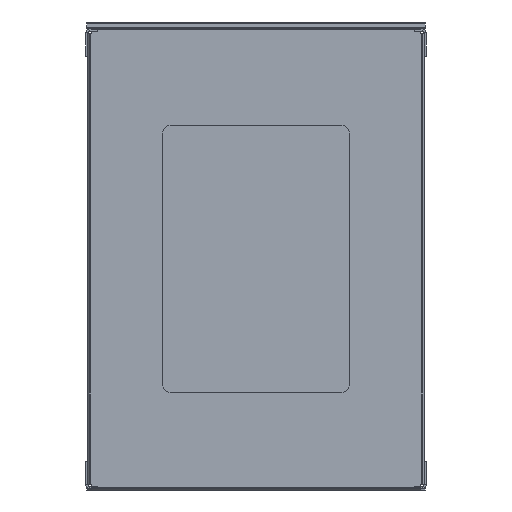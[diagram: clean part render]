
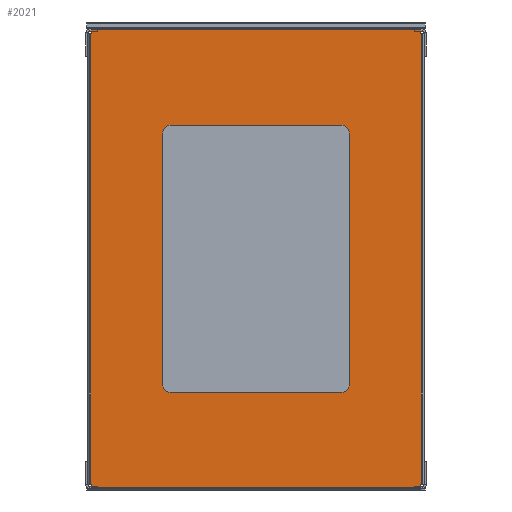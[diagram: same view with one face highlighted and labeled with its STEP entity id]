
A CAD part, front view. The second image highlights one B-rep face of the part: STEP entity #2021.
In plain terms, the highlighted planar face has unit normal (0, -1, 0).
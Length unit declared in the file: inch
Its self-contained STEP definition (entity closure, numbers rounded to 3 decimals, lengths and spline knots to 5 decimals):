
#292=DIRECTION('',(0.,0.,-1.));
#293=VECTOR('',#292,25.318);
#294=CARTESIAN_POINT('',(9.3125,0.,12.659));
#295=LINE('',#294,#293);
#314=DIRECTION('',(1.,0.,0.));
#315=VECTOR('',#314,0.045);
#316=CARTESIAN_POINT('',(9.2675,0.,12.659));
#317=LINE('',#316,#315);
#370=DIRECTION('',(0.,0.,-1.));
#371=VECTOR('',#370,0.204);
#372=CARTESIAN_POINT('',(9.2675,0.,12.863));
#373=LINE('',#372,#371);
#374=DIRECTION('',(-1.,0.,0.));
#375=VECTOR('',#374,18.535);
#376=CARTESIAN_POINT('',(9.2675,0.,12.863));
#377=LINE('',#376,#375);
#378=DIRECTION('',(0.,0.,-1.));
#379=VECTOR('',#378,25.318);
#380=CARTESIAN_POINT('',(-9.3125,0.,12.659));
#381=LINE('',#380,#379);
#382=DIRECTION('',(-1.,0.,0.));
#383=VECTOR('',#382,9.626);
#384=CARTESIAN_POINT('',(4.813,0.,-7.5));
#385=LINE('',#384,#383);
#386=CARTESIAN_POINT('',(4.813,0.,-7.063));
#387=DIRECTION('',(0.,1.,0.));
#388=DIRECTION('',(1.,0.,0.));
#389=AXIS2_PLACEMENT_3D('',#386,#387,#388);
#391=DIRECTION('',(0.,0.,-1.));
#392=VECTOR('',#391,14.126);
#393=CARTESIAN_POINT('',(5.25,0.,7.063));
#394=LINE('',#393,#392);
#395=CARTESIAN_POINT('',(4.813,0.,7.063));
#396=DIRECTION('',(0.,1.,0.));
#397=DIRECTION('',(0.,0.,1.));
#398=AXIS2_PLACEMENT_3D('',#395,#396,#397);
#400=DIRECTION('',(1.,0.,0.));
#401=VECTOR('',#400,9.626);
#402=CARTESIAN_POINT('',(-4.813,0.,7.5));
#403=LINE('',#402,#401);
#404=CARTESIAN_POINT('',(-4.813,0.,7.063));
#405=DIRECTION('',(0.,1.,0.));
#406=DIRECTION('',(-1.,0.,0.));
#407=AXIS2_PLACEMENT_3D('',#404,#405,#406);
#409=DIRECTION('',(0.,0.,1.));
#410=VECTOR('',#409,14.126);
#411=CARTESIAN_POINT('',(-5.25,0.,-7.063));
#412=LINE('',#411,#410);
#413=CARTESIAN_POINT('',(-4.813,0.,-7.063));
#414=DIRECTION('',(0.,1.,0.));
#415=DIRECTION('',(0.,0.,-1.));
#416=AXIS2_PLACEMENT_3D('',#413,#414,#415);
#426=DIRECTION('',(1.,0.,0.));
#427=VECTOR('',#426,0.045);
#428=CARTESIAN_POINT('',(-9.3125,0.,12.659));
#429=LINE('',#428,#427);
#442=DIRECTION('',(0.,0.,-1.));
#443=VECTOR('',#442,0.204);
#444=CARTESIAN_POINT('',(-9.2675,0.,12.863));
#445=LINE('',#444,#443);
#602=DIRECTION('',(1.,0.,0.));
#603=VECTOR('',#602,0.045);
#604=CARTESIAN_POINT('',(-9.3125,0.,-12.659));
#605=LINE('',#604,#603);
#614=DIRECTION('',(0.,0.,-1.));
#615=VECTOR('',#614,0.204);
#616=CARTESIAN_POINT('',(-9.2675,0.,-12.659));
#617=LINE('',#616,#615);
#742=DIRECTION('',(-1.,0.,0.));
#743=VECTOR('',#742,18.535);
#744=CARTESIAN_POINT('',(9.2675,0.,-12.863));
#745=LINE('',#744,#743);
#754=DIRECTION('',(0.,0.,-1.));
#755=VECTOR('',#754,0.204);
#756=CARTESIAN_POINT('',(9.2675,0.,-12.659));
#757=LINE('',#756,#755);
#766=DIRECTION('',(1.,0.,0.));
#767=VECTOR('',#766,0.045);
#768=CARTESIAN_POINT('',(9.2675,0.,-12.659));
#769=LINE('',#768,#767);
#1118=CARTESIAN_POINT('',(9.2675,0.,-12.659));
#1119=CARTESIAN_POINT('',(9.2675,0.,-12.863));
#1120=VERTEX_POINT('',#1118);
#1121=VERTEX_POINT('',#1119);
#1122=CARTESIAN_POINT('',(-9.2675,0.,-12.659));
#1123=CARTESIAN_POINT('',(-9.2675,0.,-12.863));
#1124=VERTEX_POINT('',#1122);
#1125=VERTEX_POINT('',#1123);
#1126=CARTESIAN_POINT('',(-9.3125,0.,-12.659));
#1127=VERTEX_POINT('',#1126);
#1128=CARTESIAN_POINT('',(9.3125,0.,-12.659));
#1129=VERTEX_POINT('',#1128);
#1142=CARTESIAN_POINT('',(9.2675,0.,12.863));
#1143=CARTESIAN_POINT('',(9.2675,0.,12.659));
#1144=VERTEX_POINT('',#1142);
#1145=VERTEX_POINT('',#1143);
#1146=CARTESIAN_POINT('',(-9.2675,0.,12.863));
#1147=CARTESIAN_POINT('',(-9.2675,0.,12.659));
#1148=VERTEX_POINT('',#1146);
#1149=VERTEX_POINT('',#1147);
#1150=CARTESIAN_POINT('',(-9.3125,0.,12.659));
#1151=VERTEX_POINT('',#1150);
#1152=CARTESIAN_POINT('',(9.3125,0.,12.659));
#1153=VERTEX_POINT('',#1152);
#1234=CARTESIAN_POINT('',(4.813,0.,-7.5));
#1235=CARTESIAN_POINT('',(-4.813,0.,-7.5));
#1236=VERTEX_POINT('',#1234);
#1237=VERTEX_POINT('',#1235);
#1238=CARTESIAN_POINT('',(-5.25,0.,-7.063));
#1239=VERTEX_POINT('',#1238);
#1240=CARTESIAN_POINT('',(-5.25,0.,7.063));
#1241=VERTEX_POINT('',#1240);
#1242=CARTESIAN_POINT('',(-4.813,0.,7.5));
#1243=VERTEX_POINT('',#1242);
#1244=CARTESIAN_POINT('',(4.813,0.,7.5));
#1245=VERTEX_POINT('',#1244);
#1246=CARTESIAN_POINT('',(5.25,0.,7.063));
#1247=VERTEX_POINT('',#1246);
#1248=CARTESIAN_POINT('',(5.25,0.,-7.063));
#1249=VERTEX_POINT('',#1248);
#1975=CARTESIAN_POINT('',(-9.3125,0.,12.659));
#1976=DIRECTION('',(0.,-1.,0.));
#1977=DIRECTION('',(1.,0.,0.));
#1978=AXIS2_PLACEMENT_3D('',#1975,#1976,#1977);
#1979=PLANE('',#1978);
#1981=ORIENTED_EDGE('',*,*,#1980,.T.);
#1983=ORIENTED_EDGE('',*,*,#1982,.F.);
#1985=ORIENTED_EDGE('',*,*,#1984,.F.);
#1986=ORIENTED_EDGE('',*,*,#1968,.T.);
#1987=ORIENTED_EDGE('',*,*,#1905,.T.);
#1988=ORIENTED_EDGE('',*,*,#1877,.T.);
#1990=ORIENTED_EDGE('',*,*,#1989,.F.);
#1992=ORIENTED_EDGE('',*,*,#1991,.T.);
#1994=ORIENTED_EDGE('',*,*,#1993,.T.);
#1996=ORIENTED_EDGE('',*,*,#1995,.F.);
#1998=ORIENTED_EDGE('',*,*,#1997,.F.);
#2000=ORIENTED_EDGE('',*,*,#1999,.F.);
#2001=EDGE_LOOP('',(#1981,#1983,#1985,#1986,#1987,#1988,#1990,#1992,#1994,#1996,
#1998,#2000));
#2002=FACE_OUTER_BOUND('',#2001,.F.);
#2004=ORIENTED_EDGE('',*,*,#2003,.F.);
#2006=ORIENTED_EDGE('',*,*,#2005,.F.);
#2008=ORIENTED_EDGE('',*,*,#2007,.F.);
#2010=ORIENTED_EDGE('',*,*,#2009,.F.);
#2012=ORIENTED_EDGE('',*,*,#2011,.F.);
#2014=ORIENTED_EDGE('',*,*,#2013,.F.);
#2016=ORIENTED_EDGE('',*,*,#2015,.F.);
#2018=ORIENTED_EDGE('',*,*,#2017,.F.);
#2019=EDGE_LOOP('',(#2004,#2006,#2008,#2010,#2012,#2014,#2016,#2018));
#2020=FACE_BOUND('',#2019,.F.);
#2021=ADVANCED_FACE('',(#2002,#2020),#1979,.T.);
#390=CIRCLE('',#389,0.437);
#399=CIRCLE('',#398,0.437);
#408=CIRCLE('',#407,0.437);
#417=CIRCLE('',#416,0.437);
#1877=EDGE_CURVE('',#1153,#1129,#295,.T.);
#1905=EDGE_CURVE('',#1145,#1153,#317,.T.);
#1968=EDGE_CURVE('',#1144,#1145,#373,.T.);
#1980=EDGE_CURVE('',#1151,#1149,#429,.T.);
#1982=EDGE_CURVE('',#1148,#1149,#445,.T.);
#1984=EDGE_CURVE('',#1144,#1148,#377,.T.);
#1989=EDGE_CURVE('',#1120,#1129,#769,.T.);
#1991=EDGE_CURVE('',#1120,#1121,#757,.T.);
#1993=EDGE_CURVE('',#1121,#1125,#745,.T.);
#1995=EDGE_CURVE('',#1124,#1125,#617,.T.);
#1997=EDGE_CURVE('',#1127,#1124,#605,.T.);
#1999=EDGE_CURVE('',#1151,#1127,#381,.T.);
#2003=EDGE_CURVE('',#1236,#1237,#385,.T.);
#2005=EDGE_CURVE('',#1249,#1236,#390,.T.);
#2007=EDGE_CURVE('',#1247,#1249,#394,.T.);
#2009=EDGE_CURVE('',#1245,#1247,#399,.T.);
#2011=EDGE_CURVE('',#1243,#1245,#403,.T.);
#2013=EDGE_CURVE('',#1241,#1243,#408,.T.);
#2015=EDGE_CURVE('',#1239,#1241,#412,.T.);
#2017=EDGE_CURVE('',#1237,#1239,#417,.T.);
